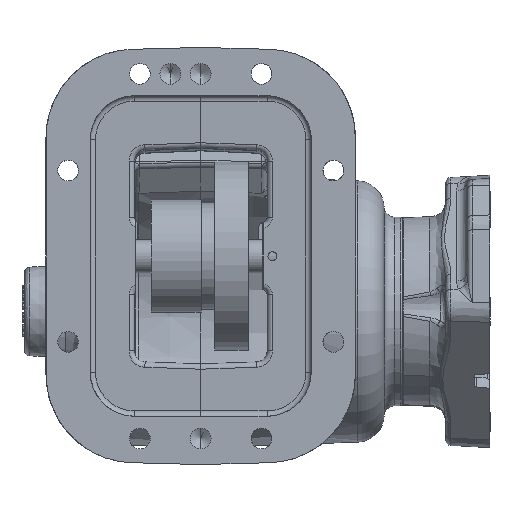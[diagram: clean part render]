
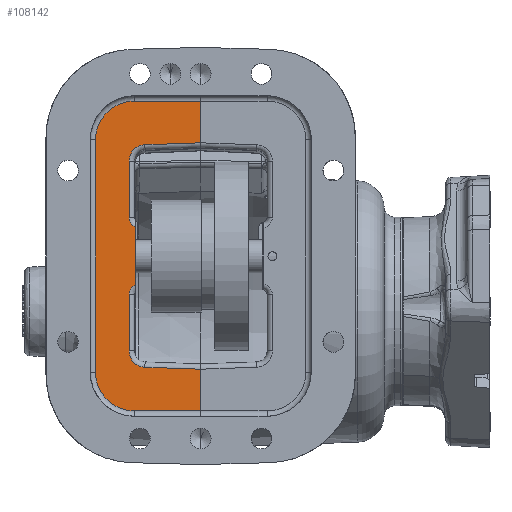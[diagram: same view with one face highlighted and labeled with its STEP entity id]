
A CAD part, front view. The second image highlights one B-rep face of the part: STEP entity #108142.
In plain terms, the highlighted planar face has unit normal (0, -1, 0).
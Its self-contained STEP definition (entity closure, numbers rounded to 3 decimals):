
#1287 = CARTESIAN_POINT ( 'NONE',  ( -10.39, -133.047, -95.578 ) ) ;
#1298 = DIRECTION ( 'NONE',  ( 0., 0., 1. ) ) ;
#1501 = DIRECTION ( 'NONE',  ( 0., 0., -1. ) ) ;
#1606 = CARTESIAN_POINT ( 'NONE',  ( -47.728, -133.047, -95.578 ) ) ;
#1616 = DIRECTION ( 'NONE',  ( 0., 0., -1. ) ) ;
#1619 = CARTESIAN_POINT ( 'NONE',  ( -51.538, -133.047, 44.059 ) ) ;
#1621 = CARTESIAN_POINT ( 'NONE',  ( -45.442, -133.047, 44.059 ) ) ;
#1623 = DIRECTION ( 'NONE',  ( 0., -1., 0. ) ) ;
#1625 = DIRECTION ( 'NONE',  ( 0., 0., -1. ) ) ;
#1627 = DIRECTION ( 'NONE',  ( -0.999, 0., -0.035 ) ) ;
#1628 = CARTESIAN_POINT ( 'NONE',  ( -10.39, -133.047, 110.924 ) ) ;
#1629 = CARTESIAN_POINT ( 'NONE',  ( -42.468, -133.047, 85.803 ) ) ;
#1631 = CARTESIAN_POINT ( 'NONE',  ( -42.14, -133.047, 76.41 ) ) ;
#1633 = DIRECTION ( 'NONE',  ( 0., -1., 0. ) ) ;
#1635 = DIRECTION ( 'NONE',  ( 0., 0., -1. ) ) ;
#1638 = DIRECTION ( 'NONE',  ( 1., 0., 0. ) ) ;
#1641 = DIRECTION ( 'NONE',  ( 0., 0., 1. ) ) ;
#1646 = CARTESIAN_POINT ( 'NONE',  ( -70.842, -133.047, 88.572 ) ) ;
#1648 = CARTESIAN_POINT ( 'NONE',  ( -48.49, -133.047, 88.572 ) ) ;
#1650 = DIRECTION ( 'NONE',  ( 0., 1., 0. ) ) ;
#1652 = DIRECTION ( 'NONE',  ( 0., 0., -1. ) ) ;
#1656 = DIRECTION ( 'NONE',  ( -1., 0., 0. ) ) ;
#1658 = CARTESIAN_POINT ( 'NONE',  ( -10.497, -133.047, -43.125 ) ) ;
#1660 = CARTESIAN_POINT ( 'NONE',  ( -48.49, -133.047, -67.13 ) ) ;
#1662 = CARTESIAN_POINT ( 'NONE',  ( -48.49, -133.047, -44.778 ) ) ;
#1664 = DIRECTION ( 'NONE',  ( 0., 1., 0. ) ) ;
#1666 = DIRECTION ( 'NONE',  ( 0., 0., -1. ) ) ;
#1669 = DIRECTION ( 'NONE',  ( 0.999, 0., -0.035 ) ) ;
#1672 = DIRECTION ( 'NONE',  ( 0., 0., -1. ) ) ;
#1678 = CARTESIAN_POINT ( 'NONE',  ( -51.538, -133.047, -32.617 ) ) ;
#1680 = CARTESIAN_POINT ( 'NONE',  ( -42.14, -133.047, -32.617 ) ) ;
#1682 = DIRECTION ( 'NONE',  ( 0., -1., 0. ) ) ;
#1684 = DIRECTION ( 'NONE',  ( 0., 0., -1. ) ) ;
#1694 = CARTESIAN_POINT ( 'NONE',  ( -45.442, -133.047, -0.265 ) ) ;
#1696 = DIRECTION ( 'NONE',  ( 0., -1., 0. ) ) ;
#1698 = DIRECTION ( 'NONE',  ( 0., 0., -1. ) ) ;
#6257 = EDGE_LOOP ( 'NONE', ( #33291, #33292, #33293, #33294, #33295, #33296, #33297, #33298, #33299, #33300, #33301, #33302, #33303, #33304, #33305, #33306 ) ) ;
#15105 = CARTESIAN_POINT ( 'NONE',  ( -10.39, -133.047, -95.578 ) ) ;
#15117 = DIRECTION ( 'NONE',  ( 0., 0., 1. ) ) ;
#16392 = VERTEX_POINT ( 'NONE', #42107 ) ;
#16395 = VERTEX_POINT ( 'NONE', #42120 ) ;
#16409 = VERTEX_POINT ( 'NONE', #42173 ) ;
#16412 = VERTEX_POINT ( 'NONE', #42182 ) ;
#16432 = VERTEX_POINT ( 'NONE', #42110 ) ;
#16438 = VERTEX_POINT ( 'NONE', #42262 ) ;
#16441 = VERTEX_POINT ( 'NONE', #42273 ) ;
#16458 = VERTEX_POINT ( 'NONE', #42305 ) ;
#16461 = VERTEX_POINT ( 'NONE', #42322 ) ;
#16464 = VERTEX_POINT ( 'NONE', #42333 ) ;
#16467 = VERTEX_POINT ( 'NONE', #42338 ) ;
#16470 = VERTEX_POINT ( 'NONE', #42347 ) ;
#16473 = VERTEX_POINT ( 'NONE', #69619 ) ;
#16475 = VERTEX_POINT ( 'NONE', #69621 ) ;
#16478 = VERTEX_POINT ( 'NONE', #42306 ) ;
#16487 = VERTEX_POINT ( 'NONE', #69631 ) ;
#24478 = EDGE_CURVE ( 'NONE', #16395, #16392, #48950, .T. ) ;
#24491 = EDGE_CURVE ( 'NONE', #16412, #16409, #48978, .T. ) ;
#24528 = EDGE_CURVE ( 'NONE', #16458, #16441, #48986, .T. ) ;
#24531 = EDGE_CURVE ( 'NONE', #16461, #16458, #48983, .T. ) ;
#24533 = EDGE_CURVE ( 'NONE', #16464, #16461, #48992, .T. ) ;
#24535 = EDGE_CURVE ( 'NONE', #16438, #16464, #48990, .T. ) ;
#24537 = EDGE_CURVE ( 'NONE', #16412, #16438, #48993, .T. ) ;
#24539 = EDGE_CURVE ( 'NONE', #16432, #16409, #48995, .T. ) ;
#24541 = EDGE_CURVE ( 'NONE', #16475, #16432, #48996, .T. ) ;
#24543 = EDGE_CURVE ( 'NONE', #16467, #16475, #48998, .T. ) ;
#24546 = EDGE_CURVE ( 'NONE', #16470, #16467, #49000, .T. ) ;
#24548 = EDGE_CURVE ( 'NONE', #16395, #16470, #49003, .T. ) ;
#24550 = EDGE_CURVE ( 'NONE', #16473, #16392, #49001, .T. ) ;
#24552 = EDGE_CURVE ( 'NONE', #16487, #16473, #49004, .T. ) ;
#24554 = EDGE_CURVE ( 'NONE', #16478, #16487, #49006, .T. ) ;
#24556 = EDGE_CURVE ( 'NONE', #16441, #16478, #49008, .T. ) ;
#33291 = ORIENTED_EDGE ( 'NONE', *, *, #24528, .F. ) ;
#33292 = ORIENTED_EDGE ( 'NONE', *, *, #24531, .F. ) ;
#33293 = ORIENTED_EDGE ( 'NONE', *, *, #24533, .F. ) ;
#33294 = ORIENTED_EDGE ( 'NONE', *, *, #24535, .F. ) ;
#33295 = ORIENTED_EDGE ( 'NONE', *, *, #24537, .F. ) ;
#33296 = ORIENTED_EDGE ( 'NONE', *, *, #24491, .T. ) ;
#33297 = ORIENTED_EDGE ( 'NONE', *, *, #24539, .F. ) ;
#33298 = ORIENTED_EDGE ( 'NONE', *, *, #24541, .F. ) ;
#33299 = ORIENTED_EDGE ( 'NONE', *, *, #24543, .F. ) ;
#33300 = ORIENTED_EDGE ( 'NONE', *, *, #24546, .F. ) ;
#33301 = ORIENTED_EDGE ( 'NONE', *, *, #24548, .F. ) ;
#33302 = ORIENTED_EDGE ( 'NONE', *, *, #24478, .T. ) ;
#33303 = ORIENTED_EDGE ( 'NONE', *, *, #24550, .F. ) ;
#33304 = ORIENTED_EDGE ( 'NONE', *, *, #24552, .F. ) ;
#33305 = ORIENTED_EDGE ( 'NONE', *, *, #24554, .F. ) ;
#33306 = ORIENTED_EDGE ( 'NONE', *, *, #24556, .F. ) ;
#42107 = CARTESIAN_POINT ( 'NONE',  ( -10.39, -133.047, -43.129 ) ) ;
#42110 = CARTESIAN_POINT ( 'NONE',  ( -48.49, -133.047, 110.924 ) ) ;
#42120 = CARTESIAN_POINT ( 'NONE',  ( -10.39, -133.047, -67.13 ) ) ;
#42173 = CARTESIAN_POINT ( 'NONE',  ( -10.39, -133.047, 110.924 ) ) ;
#42182 = CARTESIAN_POINT ( 'NONE',  ( -10.39, -133.047, 86.923 ) ) ;
#42262 = CARTESIAN_POINT ( 'NONE',  ( -42.468, -133.047, 85.803 ) ) ;
#42273 = CARTESIAN_POINT ( 'NONE',  ( -47.728, -133.047, 5.386 ) ) ;
#42305 = CARTESIAN_POINT ( 'NONE',  ( -47.728, -133.047, 38.408 ) ) ;
#42306 = CARTESIAN_POINT ( 'NONE',  ( -51.538, -133.047, -0.265 ) ) ;
#42322 = CARTESIAN_POINT ( 'NONE',  ( -51.538, -133.047, 44.059 ) ) ;
#42333 = CARTESIAN_POINT ( 'NONE',  ( -51.538, -133.047, 76.41 ) ) ;
#42338 = CARTESIAN_POINT ( 'NONE',  ( -70.842, -133.047, -44.778 ) ) ;
#42347 = CARTESIAN_POINT ( 'NONE',  ( -48.49, -133.047, -67.13 ) ) ;
#48950 = LINE ( 'NONE', #15105, #48971 ) ;
#48971 = VECTOR ( 'NONE', #15117, 1000. ) ;
#48978 = LINE ( 'NONE', #1287, #48982 ) ;
#48982 = VECTOR ( 'NONE', #1298, 1000. ) ;
#48983 = CIRCLE ( 'NONE', #80115, 6.096 ) ;
#48986 = LINE ( 'NONE', #1606, #48991 ) ;
#48990 = CIRCLE ( 'NONE', #80116, 9.398 ) ;
#48991 = VECTOR ( 'NONE', #1501, 1000. ) ;
#48992 = LINE ( 'NONE', #1619, #48994 ) ;
#48993 = LINE ( 'NONE', #1629, #48997 ) ;
#48994 = VECTOR ( 'NONE', #1616, 1000. ) ;
#48995 = LINE ( 'NONE', #1628, #48999 ) ;
#48996 = CIRCLE ( 'NONE', #80117, 22.352 ) ;
#48997 = VECTOR ( 'NONE', #1627, 1000. ) ;
#48998 = LINE ( 'NONE', #1646, #49002 ) ;
#48999 = VECTOR ( 'NONE', #1638, 1000. ) ;
#49000 = CIRCLE ( 'NONE', #80118, 22.352 ) ;
#49001 = LINE ( 'NONE', #1658, #49007 ) ;
#49002 = VECTOR ( 'NONE', #1641, 1000. ) ;
#49003 = LINE ( 'NONE', #1660, #49005 ) ;
#49004 = CIRCLE ( 'NONE', #80119, 9.398 ) ;
#49005 = VECTOR ( 'NONE', #1656, 1000. ) ;
#49006 = LINE ( 'NONE', #1678, #49010 ) ;
#49007 = VECTOR ( 'NONE', #1669, 1000. ) ;
#49008 = CIRCLE ( 'NONE', #80120, 6.096 ) ;
#49010 = VECTOR ( 'NONE', #1672, 1000. ) ;
#69619 = CARTESIAN_POINT ( 'NONE',  ( -42.468, -133.047, -42.009 ) ) ;
#69621 = CARTESIAN_POINT ( 'NONE',  ( -70.842, -133.047, 88.572 ) ) ;
#69631 = CARTESIAN_POINT ( 'NONE',  ( -51.538, -133.047, -32.617 ) ) ;
#80115 = AXIS2_PLACEMENT_3D ( 'NONE', #1621, #1623, #1625 ) ;
#80116 = AXIS2_PLACEMENT_3D ( 'NONE', #1631, #1633, #1635 ) ;
#80117 = AXIS2_PLACEMENT_3D ( 'NONE', #1648, #1650, #1652 ) ;
#80118 = AXIS2_PLACEMENT_3D ( 'NONE', #1662, #1664, #1666 ) ;
#80119 = AXIS2_PLACEMENT_3D ( 'NONE', #1680, #1682, #1684 ) ;
#80120 = AXIS2_PLACEMENT_3D ( 'NONE', #1694, #1696, #1698 ) ;
#105232 = FACE_OUTER_BOUND ( 'NONE', #6257, .T. ) ;
#108142 = ADVANCED_FACE ( 'NONE', ( #105232 ), #115595, .F. ) ;
#112082 = AXIS2_PLACEMENT_3D ( 'NONE', #115588, #115597, #115599 ) ;
#115588 = CARTESIAN_POINT ( 'NONE',  ( -99.29, -133.047, -95.578 ) ) ;
#115595 = PLANE ( 'NONE',  #112082 ) ;
#115597 = DIRECTION ( 'NONE',  ( 0., 1., 0. ) ) ;
#115599 = DIRECTION ( 'NONE',  ( 0., 0., -1. ) ) ;
